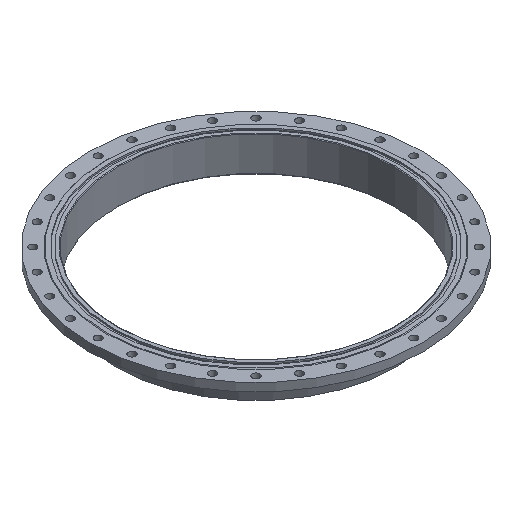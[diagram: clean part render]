
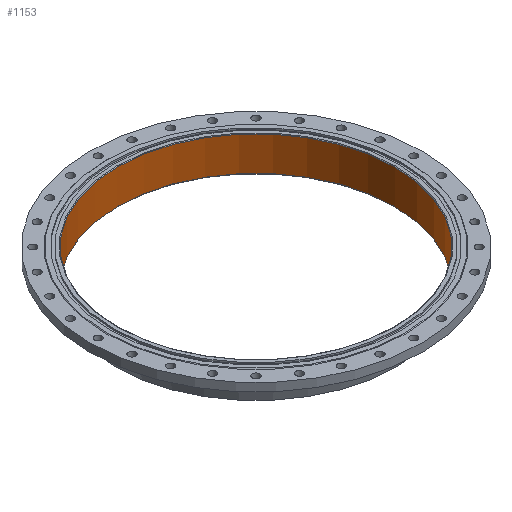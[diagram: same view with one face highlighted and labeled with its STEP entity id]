
A CAD part, isometric view. The second image highlights one B-rep face of the part: STEP entity #1153.
In plain terms, the highlighted cylindrical face has radius 751 mm (diameter 1502 mm), a full revolution.
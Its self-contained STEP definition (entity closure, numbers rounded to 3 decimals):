
#135=FACE_OUTER_BOUND('',#217,.T.);
#217=EDGE_LOOP('',(#1007,#1008,#1009,#1010,#1011));
#295=LINE('',#2042,#334);
#334=VECTOR('',#1698,751.);
#450=CIRCLE('',#1332,751.);
#451=CIRCLE('',#1334,751.);
#452=CIRCLE('',#1335,751.);
#574=VERTEX_POINT('',#2035);
#575=VERTEX_POINT('',#2039);
#576=VERTEX_POINT('',#2040);
#733=EDGE_CURVE('',#574,#574,#450,.T.);
#734=EDGE_CURVE('',#575,#576,#451,.T.);
#735=EDGE_CURVE('',#576,#574,#295,.T.);
#736=EDGE_CURVE('',#576,#575,#452,.T.);
#1007=ORIENTED_EDGE('',*,*,#734,.T.);
#1008=ORIENTED_EDGE('',*,*,#735,.T.);
#1009=ORIENTED_EDGE('',*,*,#733,.F.);
#1010=ORIENTED_EDGE('',*,*,#735,.F.);
#1011=ORIENTED_EDGE('',*,*,#736,.T.);
#1112=CYLINDRICAL_SURFACE('',#1333,751.);
#1153=ADVANCED_FACE('',(#135),#1112,.F.);
#1332=AXIS2_PLACEMENT_3D('',#2037,#1692,#1693);
#1333=AXIS2_PLACEMENT_3D('',#2038,#1694,#1695);
#1334=AXIS2_PLACEMENT_3D('',#2041,#1696,#1697);
#1335=AXIS2_PLACEMENT_3D('',#2043,#1699,#1700);
#1692=DIRECTION('center_axis',(0.,0.,-1.));
#1693=DIRECTION('ref_axis',(-1.,0.,0.));
#1694=DIRECTION('center_axis',(0.,0.,-1.));
#1695=DIRECTION('ref_axis',(-1.,0.,0.));
#1696=DIRECTION('center_axis',(0.,0.,-1.));
#1697=DIRECTION('ref_axis',(1.,0.,0.));
#1698=DIRECTION('',(0.,0.,1.));
#1699=DIRECTION('center_axis',(0.,0.,-1.));
#1700=DIRECTION('ref_axis',(1.,0.,0.));
#2035=CARTESIAN_POINT('',(751.,0.,-3.));
#2037=CARTESIAN_POINT('Origin',(0.,0.,-3.));
#2038=CARTESIAN_POINT('Origin',(0.,0.,0.));
#2039=CARTESIAN_POINT('',(-751.,0.,-190.));
#2040=CARTESIAN_POINT('',(751.,0.,-190.));
#2041=CARTESIAN_POINT('Origin',(0.,0.,-190.));
#2042=CARTESIAN_POINT('',(751.,0.,0.));
#2043=CARTESIAN_POINT('Origin',(0.,0.,-190.));
